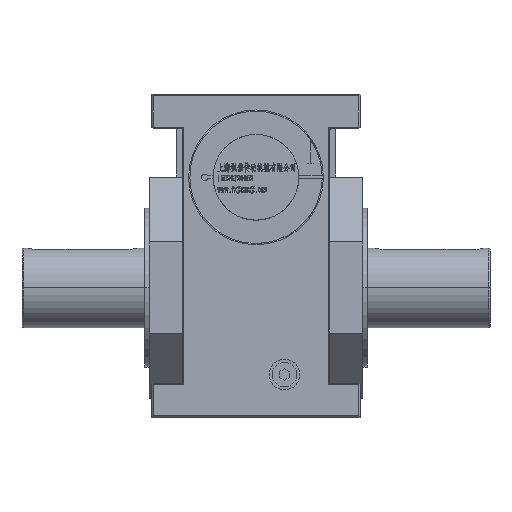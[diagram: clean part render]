
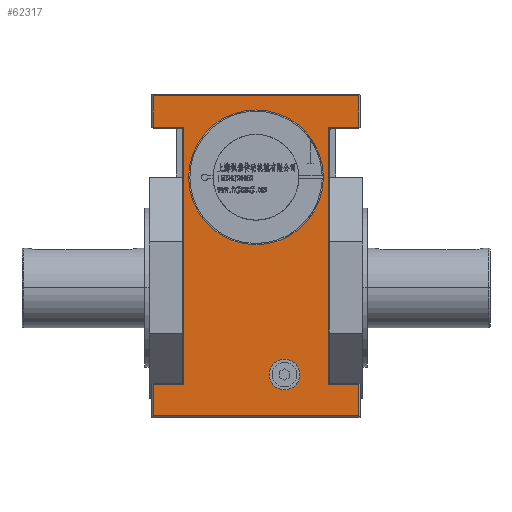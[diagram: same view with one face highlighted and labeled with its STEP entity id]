
A CAD part, top view. The second image highlights one B-rep face of the part: STEP entity #62317.
In plain terms, the highlighted planar face has unit normal (0, 0, 1).
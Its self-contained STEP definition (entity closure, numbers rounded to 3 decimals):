
#321 = CARTESIAN_POINT ( 'NONE',  ( -55., 90., 114. ) ) ;
#418 = EDGE_CURVE ( 'NONE', #45306, #24039, #84968, .T. ) ;
#1224 = VERTEX_POINT ( 'NONE', #25873 ) ;
#2878 = VECTOR ( 'NONE', #107333, 1000. ) ;
#3307 = DIRECTION ( 'NONE',  ( 0., 1., 0. ) ) ;
#3508 = DIRECTION ( 'NONE',  ( 0., 1., 0. ) ) ;
#4353 = VECTOR ( 'NONE', #15940, 1000. ) ;
#4767 = VECTOR ( 'NONE', #48452, 1000. ) ;
#5854 = ORIENTED_EDGE ( 'NONE', *, *, #69251, .T. ) ;
#8082 = CARTESIAN_POINT ( 'NONE',  ( 55., 90., 114. ) ) ;
#8476 = CARTESIAN_POINT ( 'NONE',  ( 59., 131., 114. ) ) ;
#9422 = EDGE_CURVE ( 'NONE', #94998, #11510, #79519, .T. ) ;
#9423 = ORIENTED_EDGE ( 'NONE', *, *, #81949, .T. ) ;
#9812 = DIRECTION ( 'NONE',  ( -1., 0., 0. ) ) ;
#10878 = FACE_OUTER_BOUND ( 'NONE', #41251, .T. ) ;
#11510 = VERTEX_POINT ( 'NONE', #85076 ) ;
#13534 = ORIENTED_EDGE ( 'NONE', *, *, #70320, .T. ) ;
#14799 = DIRECTION ( 'NONE',  ( 1., 0., 0. ) ) ;
#15328 = CARTESIAN_POINT ( 'NONE',  ( -84., 158., 114. ) ) ;
#15562 = LINE ( 'NONE', #64428, #2878 ) ;
#15777 = CARTESIAN_POINT ( 'NONE',  ( 35.762, -71., 114. ) ) ;
#15863 = VERTEX_POINT ( 'NONE', #78367 ) ;
#15940 = DIRECTION ( 'NONE',  ( -1., 0., 0. ) ) ;
#16139 = CARTESIAN_POINT ( 'NONE',  ( 85., 156.5, 114. ) ) ;
#16265 = VERTEX_POINT ( 'NONE', #22286 ) ;
#16450 = ORIENTED_EDGE ( 'NONE', *, *, #18458, .T. ) ;
#16620 = VERTEX_POINT ( 'NONE', #59426 ) ;
#18458 = EDGE_CURVE ( 'NONE', #37937, #1224, #90284, .T. ) ;
#19476 = EDGE_CURVE ( 'NONE', #75687, #94998, #70238, .T. ) ;
#20537 = EDGE_LOOP ( 'NONE', ( #77024, #55654 ) ) ;
#21437 = CARTESIAN_POINT ( 'NONE',  ( 23.262, -71., 114. ) ) ;
#21883 = EDGE_CURVE ( 'NONE', #24039, #45306, #54063, .T. ) ;
#22286 = CARTESIAN_POINT ( 'NONE',  ( -84., 156.5, 114. ) ) ;
#24039 = VERTEX_POINT ( 'NONE', #8082 ) ;
#24396 = CARTESIAN_POINT ( 'NONE',  ( -84., 131., 114. ) ) ;
#25873 = CARTESIAN_POINT ( 'NONE',  ( -59., 131., 114. ) ) ;
#26462 = CARTESIAN_POINT ( 'NONE',  ( 84., 156.5, 114. ) ) ;
#26668 = CARTESIAN_POINT ( 'NONE',  ( -84., -79., 114. ) ) ;
#26976 = LINE ( 'NONE', #44319, #69542 ) ;
#27719 = CIRCLE ( 'NONE', #102299, 12.5 ) ;
#28994 = EDGE_LOOP ( 'NONE', ( #34966, #29712 ) ) ;
#29712 = ORIENTED_EDGE ( 'NONE', *, *, #58715, .F. ) ;
#30823 = VECTOR ( 'NONE', #14799, 1000. ) ;
#31331 = DIRECTION ( 'NONE',  ( 0., -1., 0. ) ) ;
#32147 = ORIENTED_EDGE ( 'NONE', *, *, #19476, .T. ) ;
#32709 = CARTESIAN_POINT ( 'NONE',  ( -60., 131., 114. ) ) ;
#32889 = VERTEX_POINT ( 'NONE', #8476 ) ;
#34655 = VECTOR ( 'NONE', #95291, 1000. ) ;
#34966 = ORIENTED_EDGE ( 'NONE', *, *, #45383, .F. ) ;
#35345 = FACE_BOUND ( 'NONE', #20537, .T. ) ;
#35876 = CARTESIAN_POINT ( 'NONE',  ( 85., 158., 114. ) ) ;
#37937 = VERTEX_POINT ( 'NONE', #24396 ) ;
#38359 = CARTESIAN_POINT ( 'NONE',  ( 23.262, -71., 114. ) ) ;
#39421 = DIRECTION ( 'NONE',  ( 0., 1., 0. ) ) ;
#39969 = EDGE_CURVE ( 'NONE', #15863, #32889, #85862, .T. ) ;
#41251 = EDGE_LOOP ( 'NONE', ( #73568, #67688, #98083, #5854, #16450, #9423, #72130, #97296, #32147, #89099, #13534, #60385 ) ) ;
#42469 = VECTOR ( 'NONE', #71542, 1000. ) ;
#42861 = VECTOR ( 'NONE', #3307, 1000. ) ;
#43161 = AXIS2_PLACEMENT_3D ( 'NONE', #21437, #77373, #86061 ) ;
#44005 = DIRECTION ( 'NONE',  ( 0., 0., -1. ) ) ;
#44319 = CARTESIAN_POINT ( 'NONE',  ( -85., -79., 114. ) ) ;
#44976 = VERTEX_POINT ( 'NONE', #66839 ) ;
#45306 = VERTEX_POINT ( 'NONE', #321 ) ;
#45383 = EDGE_CURVE ( 'NONE', #90837, #87650, #74377, .T. ) ;
#46488 = DIRECTION ( 'NONE',  ( 0., 0., 1. ) ) ;
#48452 = DIRECTION ( 'NONE',  ( 0., -1., 0. ) ) ;
#49436 = CARTESIAN_POINT ( 'NONE',  ( -84., 158., 114. ) ) ;
#50947 = CARTESIAN_POINT ( 'NONE',  ( 84., -104.5, 114. ) ) ;
#52890 = EDGE_CURVE ( 'NONE', #95528, #75687, #89722, .T. ) ;
#54063 = CIRCLE ( 'NONE', #57566, 55. ) ;
#55654 = ORIENTED_EDGE ( 'NONE', *, *, #21883, .F. ) ;
#55680 = DIRECTION ( 'NONE',  ( 1., 0., 0. ) ) ;
#57566 = AXIS2_PLACEMENT_3D ( 'NONE', #64378, #46488, #39421 ) ;
#58715 = EDGE_CURVE ( 'NONE', #87650, #90837, #27719, .T. ) ;
#59426 = CARTESIAN_POINT ( 'NONE',  ( 84., 131., 114. ) ) ;
#60385 = ORIENTED_EDGE ( 'NONE', *, *, #39969, .T. ) ;
#60509 = VERTEX_POINT ( 'NONE', #99811 ) ;
#60538 = CARTESIAN_POINT ( 'NONE',  ( 0., 90., 114. ) ) ;
#62131 = CARTESIAN_POINT ( 'NONE',  ( 84., -78., 114. ) ) ;
#62317 = ADVANCED_FACE ( 'NONE', ( #78190, #35345, #10878 ), #92385, .F. ) ;
#64378 = CARTESIAN_POINT ( 'NONE',  ( 0., 90., 114. ) ) ;
#64428 = CARTESIAN_POINT ( 'NONE',  ( 85., 131., 114. ) ) ;
#64720 = EDGE_CURVE ( 'NONE', #16620, #44976, #101903, .T. ) ;
#64756 = VECTOR ( 'NONE', #84527, 1000. ) ;
#66839 = CARTESIAN_POINT ( 'NONE',  ( 84., 156.5, 114. ) ) ;
#67688 = ORIENTED_EDGE ( 'NONE', *, *, #64720, .T. ) ;
#69251 = EDGE_CURVE ( 'NONE', #16265, #37937, #89645, .T. ) ;
#69542 = VECTOR ( 'NONE', #100837, 1000. ) ;
#70238 = LINE ( 'NONE', #78923, #96863 ) ;
#70320 = EDGE_CURVE ( 'NONE', #11510, #15863, #70394, .T. ) ;
#70394 = LINE ( 'NONE', #106084, #4353 ) ;
#71542 = DIRECTION ( 'NONE',  ( -1., 0., 0. ) ) ;
#72067 = LINE ( 'NONE', #16139, #42469 ) ;
#72130 = ORIENTED_EDGE ( 'NONE', *, *, #90059, .T. ) ;
#72578 = CARTESIAN_POINT ( 'NONE',  ( -59., -78., 114. ) ) ;
#73568 = ORIENTED_EDGE ( 'NONE', *, *, #81965, .T. ) ;
#73648 = LINE ( 'NONE', #72578, #89588 ) ;
#74377 = CIRCLE ( 'NONE', #43161, 12.5 ) ;
#75687 = VERTEX_POINT ( 'NONE', #84309 ) ;
#76279 = AXIS2_PLACEMENT_3D ( 'NONE', #60538, #77904, #3508 ) ;
#76963 = EDGE_CURVE ( 'NONE', #44976, #16265, #72067, .T. ) ;
#77024 = ORIENTED_EDGE ( 'NONE', *, *, #418, .F. ) ;
#77373 = DIRECTION ( 'NONE',  ( 0., 0., 1. ) ) ;
#77904 = DIRECTION ( 'NONE',  ( 0., 0., 1. ) ) ;
#78190 = FACE_BOUND ( 'NONE', #28994, .T. ) ;
#78367 = CARTESIAN_POINT ( 'NONE',  ( 59., -79., 114. ) ) ;
#78854 = VECTOR ( 'NONE', #83640, 1000. ) ;
#78923 = CARTESIAN_POINT ( 'NONE',  ( 85., -104.5, 114. ) ) ;
#79060 = DIRECTION ( 'NONE',  ( 0., 0., 1. ) ) ;
#79519 = LINE ( 'NONE', #62131, #34655 ) ;
#81949 = EDGE_CURVE ( 'NONE', #1224, #60509, #73648, .T. ) ;
#81965 = EDGE_CURVE ( 'NONE', #32889, #16620, #15562, .T. ) ;
#83640 = DIRECTION ( 'NONE',  ( 0., -1., 0. ) ) ;
#84309 = CARTESIAN_POINT ( 'NONE',  ( -84., -104.5, 114. ) ) ;
#84527 = DIRECTION ( 'NONE',  ( 0., 1., 0. ) ) ;
#84968 = CIRCLE ( 'NONE', #76279, 55. ) ;
#85076 = CARTESIAN_POINT ( 'NONE',  ( 84., -79., 114. ) ) ;
#85862 = LINE ( 'NONE', #92960, #42861 ) ;
#86061 = DIRECTION ( 'NONE',  ( 1., 0., 0. ) ) ;
#87650 = VERTEX_POINT ( 'NONE', #97777 ) ;
#89099 = ORIENTED_EDGE ( 'NONE', *, *, #9422, .T. ) ;
#89588 = VECTOR ( 'NONE', #31331, 1000. ) ;
#89645 = LINE ( 'NONE', #49436, #78854 ) ;
#89722 = LINE ( 'NONE', #15328, #4767 ) ;
#90059 = EDGE_CURVE ( 'NONE', #60509, #95528, #26976, .T. ) ;
#90284 = LINE ( 'NONE', #32709, #30823 ) ;
#90612 = AXIS2_PLACEMENT_3D ( 'NONE', #35876, #44005, #9812 ) ;
#90837 = VERTEX_POINT ( 'NONE', #15777 ) ;
#92385 = PLANE ( 'NONE',  #90612 ) ;
#92960 = CARTESIAN_POINT ( 'NONE',  ( 59., 130., 114. ) ) ;
#94998 = VERTEX_POINT ( 'NONE', #50947 ) ;
#95291 = DIRECTION ( 'NONE',  ( 0., 1., 0. ) ) ;
#95528 = VERTEX_POINT ( 'NONE', #26668 ) ;
#96863 = VECTOR ( 'NONE', #104460, 1000. ) ;
#97296 = ORIENTED_EDGE ( 'NONE', *, *, #52890, .T. ) ;
#97777 = CARTESIAN_POINT ( 'NONE',  ( 10.762, -71., 114. ) ) ;
#98083 = ORIENTED_EDGE ( 'NONE', *, *, #76963, .T. ) ;
#99811 = CARTESIAN_POINT ( 'NONE',  ( -59., -79., 114. ) ) ;
#100837 = DIRECTION ( 'NONE',  ( -1., 0., 0. ) ) ;
#101903 = LINE ( 'NONE', #26462, #64756 ) ;
#102299 = AXIS2_PLACEMENT_3D ( 'NONE', #38359, #79060, #55680 ) ;
#104460 = DIRECTION ( 'NONE',  ( 1., 0., 0. ) ) ;
#106084 = CARTESIAN_POINT ( 'NONE',  ( 85., -79., 114. ) ) ;
#107333 = DIRECTION ( 'NONE',  ( 1., 0., 0. ) ) ;
